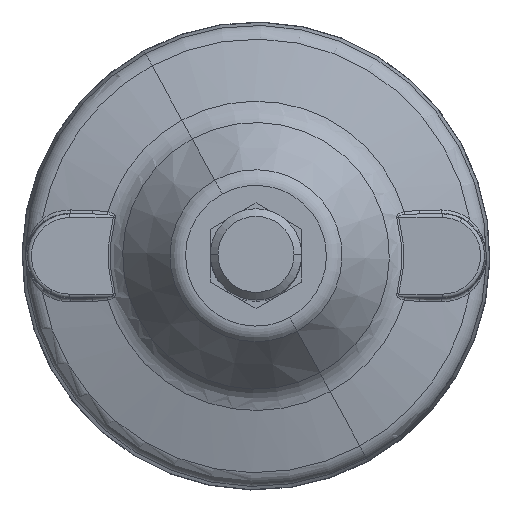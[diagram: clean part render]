
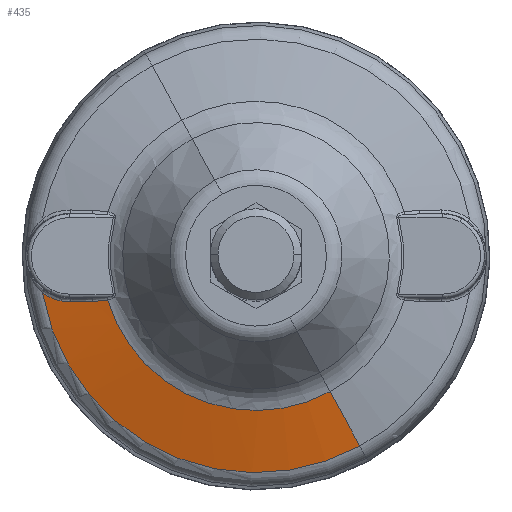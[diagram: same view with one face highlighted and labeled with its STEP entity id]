
A CAD part, top view. The second image highlights one B-rep face of the part: STEP entity #435.
In plain terms, the highlighted conical face has half-angle 75 degrees and reference radius 40.631 mm.
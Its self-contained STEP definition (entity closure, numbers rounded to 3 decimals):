
#285=EDGE_CURVE('',#785,#786,#787,.F.);
#331=EDGE_CURVE('',#858,#796,#859,.T.);
#363=EDGE_CURVE('',#906,#907,#908,.T.);
#431=EDGE_CURVE('',#785,#906,#1007,.T.);
#435=ADVANCED_FACE('',(#1013),#1014,.T.);
#459=EDGE_CURVE('',#907,#858,#1043,.F.);
#785=VERTEX_POINT('',#1482);
#786=VERTEX_POINT('',#1483);
#787=CIRCLE('',#1484,56.96);
#796=VERTEX_POINT('',#1495);
#858=VERTEX_POINT('',#1602);
#859=CIRCLE('',#1603,40.631);
#906=VERTEX_POINT('',#1703);
#907=VERTEX_POINT('',#1704);
#908=B_SPLINE_CURVE_WITH_KNOTS('',5,(#1705,#1706,#1707,#1708,#1709,#1710),.UNSPECIFIED.,.F.,.F.,(6,6),(14.929,23.469),.UNSPECIFIED.);
#1007=B_SPLINE_CURVE_WITH_KNOTS('',5,(#2181,#2182,#2183,#2184,#2185,#2186,#2187,#2188,#2189),.UNSPECIFIED.,.F.,.F.,(6,3,6),(49.555,56.996,60.338),.UNSPECIFIED.);
#1013=FACE_OUTER_BOUND('',#2196,.T.);
#1014=CONICAL_SURFACE('',#2197,40.631,1.309);
#1043=B_SPLINE_CURVE_WITH_KNOTS('',5,(#2316,#2317,#2318,#2319,#2320,#2321,#2322,#2323,#2324),.UNSPECIFIED.,.F.,.F.,(6,3,6),(25.28,27.644,31.068),.UNSPECIFIED.);
#1482=CARTESIAN_POINT('',(-56.128,-9.696,16.815));
#1483=CARTESIAN_POINT('',(27.308,-49.987,16.815));
#1484=AXIS2_PLACEMENT_3D('',#3753,#3754,#3755);
#1495=CARTESIAN_POINT('',(19.479,-35.657,21.19));
#1602=CARTESIAN_POINT('',(-38.937,-11.609,21.19));
#1603=AXIS2_PLACEMENT_3D('',#3833,#3834,#3835);
#1703=CARTESIAN_POINT('',(-48.749,-12.066,18.621));
#1704=CARTESIAN_POINT('',(-42.914,-11.979,20.139));
#1705=CARTESIAN_POINT('',(-48.749,-12.066,18.621));
#1706=CARTESIAN_POINT('',(-47.58,-12.048,18.926));
#1707=CARTESIAN_POINT('',(-46.413,-12.031,19.23));
#1708=CARTESIAN_POINT('',(-45.245,-12.014,19.534));
#1709=CARTESIAN_POINT('',(-44.079,-11.996,19.837));
#1710=CARTESIAN_POINT('',(-42.914,-11.979,20.139));
#2181=CARTESIAN_POINT('',(-56.128,-9.696,16.815));
#2182=CARTESIAN_POINT('',(-55.222,-10.367,17.023));
#2183=CARTESIAN_POINT('',(-54.251,-10.921,17.251));
#2184=CARTESIAN_POINT('',(-53.236,-11.355,17.493));
#2185=CARTESIAN_POINT('',(-51.724,-11.81,17.861));
#2186=CARTESIAN_POINT('',(-50.185,-12.016,18.25));
#2187=CARTESIAN_POINT('',(-49.706,-12.056,18.372));
#2188=CARTESIAN_POINT('',(-49.227,-12.073,18.496));
#2189=CARTESIAN_POINT('',(-48.749,-12.066,18.621));
#2196=EDGE_LOOP('',(#4022,#4023,#4024,#4025,#4026,#4027));
#2197=AXIS2_PLACEMENT_3D('',#4028,#4029,#4030);
#2316=CARTESIAN_POINT('',(-38.937,-11.609,21.19));
#2317=CARTESIAN_POINT('',(-39.259,-11.671,21.103));
#2318=CARTESIAN_POINT('',(-39.58,-11.724,21.016));
#2319=CARTESIAN_POINT('',(-39.902,-11.77,20.93));
#2320=CARTESIAN_POINT('',(-40.698,-11.867,20.718));
#2321=CARTESIAN_POINT('',(-41.495,-11.929,20.508));
#2322=CARTESIAN_POINT('',(-41.968,-11.955,20.384));
#2323=CARTESIAN_POINT('',(-42.441,-11.972,20.261));
#2324=CARTESIAN_POINT('',(-42.914,-11.979,20.139));
#3753=CARTESIAN_POINT('',(0.0,0.0,16.815));
#3754=DIRECTION('',(0.0,0.0,-1.0));
#3755=DIRECTION('',(1.0,0.0,0.0));
#3833=CARTESIAN_POINT('',(0.0,0.0,21.19));
#3834=DIRECTION('',(0.0,0.0,1.0));
#3835=DIRECTION('',(1.0,0.0,0.0));
#4022=ORIENTED_EDGE('',*,*,#4487,.T.);
#4023=ORIENTED_EDGE('',*,*,#331,.F.);
#4024=ORIENTED_EDGE('',*,*,#459,.F.);
#4025=ORIENTED_EDGE('',*,*,#363,.F.);
#4026=ORIENTED_EDGE('',*,*,#431,.F.);
#4027=ORIENTED_EDGE('',*,*,#285,.T.);
#4028=CARTESIAN_POINT('',(0.0,0.0,21.19));
#4029=DIRECTION('',(-0.0,-0.0,-1.0));
#4030=DIRECTION('',(-0.479,0.878,0.0));
#4487=EDGE_CURVE('',#786,#796,#4568,.T.);
#4568=LINE('',#4651,#4652);
#4651=CARTESIAN_POINT('',(19.479,-35.657,21.19));
#4652=VECTOR('',#4733,1.0);
#4733=DIRECTION('',(-0.463,0.848,0.259));
